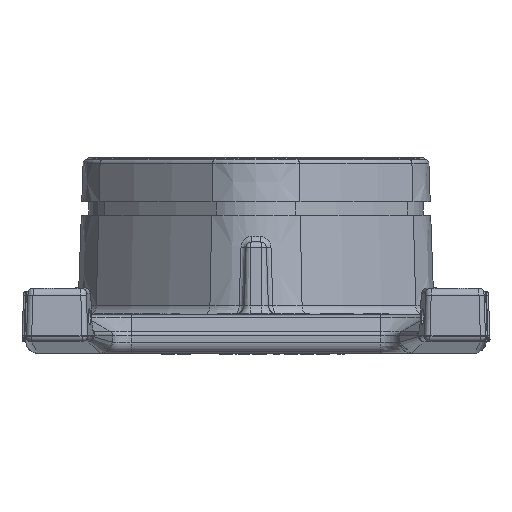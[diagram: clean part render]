
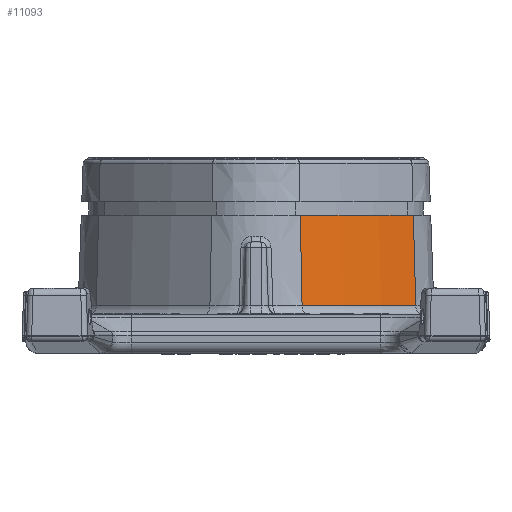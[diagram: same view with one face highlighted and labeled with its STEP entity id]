
A CAD part, left-side view. The second image highlights one B-rep face of the part: STEP entity #11093.
In plain terms, the highlighted conical face has half-angle 2 degrees and reference radius 150 mm.
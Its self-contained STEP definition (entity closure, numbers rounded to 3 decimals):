
#3655=AXIS2_PLACEMENT_3D('Circle Axis2P3D',#3653,#3654,$) ;
#11073=AXIS2_PLACEMENT_3D('Cone Axis2P3D',#11070,#11071,#11072) ;
#11077=AXIS2_PLACEMENT_3D('Circle Axis2P3D',#11075,#11076,$) ;
#3633=CARTESIAN_POINT('Vertex',(-50.515,-41.656,-12.087)) ;
#3653=CARTESIAN_POINT('Axis2P3D Location',(45.084,75.,-12.087)) ;
#3657=CARTESIAN_POINT('Vertex',(-78.109,-12.014,-12.087)) ;
#11055=CARTESIAN_POINT('Vertex',(-49.993,-41.019,11.5)) ;
#11058=CARTESIAN_POINT('Line Origine',(-50.192,-41.262,2.5)) ;
#11070=CARTESIAN_POINT('Axis2P3D Location',(45.084,75.,11.5)) ;
#11075=CARTESIAN_POINT('Axis2P3D Location',(45.084,75.,11.5)) ;
#11079=CARTESIAN_POINT('Vertex',(-77.436,-11.538,11.5)) ;
#11082=CARTESIAN_POINT('Line Origine',(-77.693,-11.72,2.5)) ;
#3654=DIRECTION('Axis2P3D Direction',(0.,-0.,1.)) ;
#11059=DIRECTION('Vector Direction',(-0.022,-0.027,-0.999)) ;
#11071=DIRECTION('Axis2P3D Direction',(-0.,-0.,-1.)) ;
#11072=DIRECTION('Axis2P3D XDirection',(-0.817,-0.577,0.)) ;
#11076=DIRECTION('Axis2P3D Direction',(0.,0.,1.)) ;
#11083=DIRECTION('Vector Direction',(-0.029,-0.02,-0.999)) ;
#11060=VECTOR('Line Direction',#11059,1.) ;
#11084=VECTOR('Line Direction',#11083,1.) ;
#11088=ORIENTED_EDGE('',*,*,#3659,.F.) ;
#11089=ORIENTED_EDGE('',*,*,#11062,.T.) ;
#11090=ORIENTED_EDGE('',*,*,#11081,.F.) ;
#11091=ORIENTED_EDGE('',*,*,#11086,.F.) ;
#11093=ADVANCED_FACE('Hold frame . Inveor MB MET - PLK BG-B.1\\Adapter komplett mit Verrundungen',(#11092),#11074,.T.) ;
#3656=CIRCLE('generated circle',#3655,150.824) ;
#11078=CIRCLE('generated circle',#11077,150.) ;
#11074=CONICAL_SURFACE('Cone',#11073,150.,0.035) ;
#3659=EDGE_CURVE('',#3634,#3658,#3656,.F.) ;
#11062=EDGE_CURVE('',#3634,#11056,#11061,.F.) ;
#11081=EDGE_CURVE('',#11080,#11056,#11078,.T.) ;
#11086=EDGE_CURVE('',#3658,#11080,#11085,.F.) ;
#11087=EDGE_LOOP('',(#11088,#11089,#11090,#11091)) ;
#11092=FACE_OUTER_BOUND('',#11087,.T.) ;
#11061=LINE('Line',#11058,#11060) ;
#11085=LINE('Line',#11082,#11084) ;
#3634=VERTEX_POINT('',#3633) ;
#3658=VERTEX_POINT('',#3657) ;
#11056=VERTEX_POINT('',#11055) ;
#11080=VERTEX_POINT('',#11079) ;
